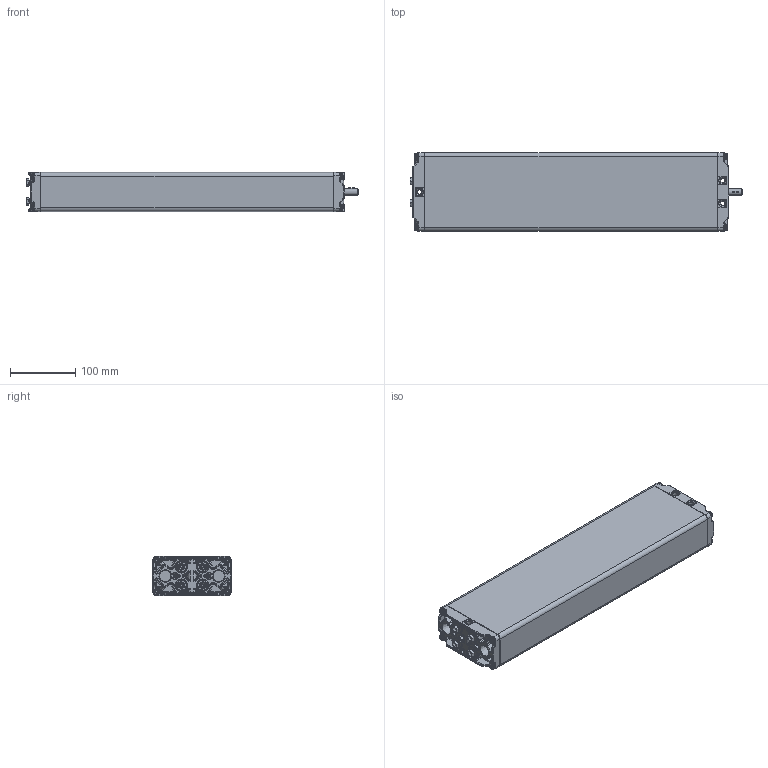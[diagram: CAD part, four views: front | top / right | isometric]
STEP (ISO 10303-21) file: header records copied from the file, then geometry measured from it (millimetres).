
FILE_DESCRIPTION(/* description */ ('Unknown'),/* implementation_level */ '2;1');
FILE_NAME(/* name */ '102.00153 Pumpe PB 4418 W',/* time_stamp */ '2016-09-02T11:03:03+02:00',/* author */ ('Unknown'),/* organization */ ('Unknown'),/* preprocessor_version */ 'ST-DEVELOPER v16.7',/* originating_system */ 'DEX',/* authorisation */ $);
FILE_SCHEMA (('AUTOMOTIVE_DESIGN {1 0 10303 214 3 1 1}'));
Products named in the file (14): 102.00153; 115.00023; 125.00044; 115.00007; 142.00021; 125.00021; 142.00013; 125.00143; 115.00140; 126.00006; 122.00040; 119.00043; 126.00005; 142.00057
Assembly tree (23 placements, depth 3):
  102.00153
    115.00023  x4
      125.00044
      115.00007
      142.00021
      125.00021
    142.00013  x8
    125.00143
    115.00140
      126.00006
      122.00040
    119.00043
    126.00005
    142.00057
Bounding box: 509.47 x 120 x 60.3 mm (x, y, z)
Volume: 637899.7 mm3; surface area: 429905.7 mm2
Topology: 26 solids, 26 shells, 2494 faces, 5921 edges, 3404 vertices
Faces by surface type: bspline 704, plane 659, cylinder 554, cone 347, torus 172, sphere 58
Full cylindrical faces by diameter (mm): 3.5 x4, 4.1 x4, 4.2 x4, 5 x8, 6.917 x8, 8 x9, 9.8 x8, 10 x3, 10.4 x5, 13.9 x8, 14 x1, 17.3 x4, 18 x1, 19 x1
Entity records: 97534 total; most frequent: CARTESIAN_POINT 54063, ORIENTED_EDGE 8234, DIRECTION 6551, EDGE_CURVE 4117, AXIS2_PLACEMENT_3D 2633, VERTEX_POINT 2519, FACE_BOUND 1980, EDGE_LOOP 1979
